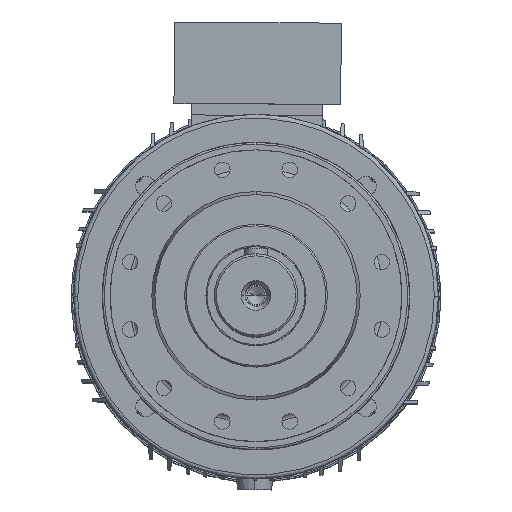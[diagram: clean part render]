
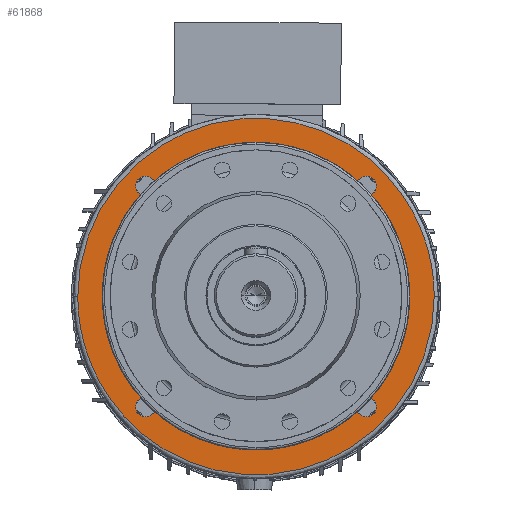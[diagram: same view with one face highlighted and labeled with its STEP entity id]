
A CAD part, top view. The second image highlights one B-rep face of the part: STEP entity #61868.
In plain terms, the highlighted planar face has unit normal (0, 0, 1).
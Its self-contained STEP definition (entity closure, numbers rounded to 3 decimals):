
#16337 = CARTESIAN_POINT ( 'NONE',  ( -171., -342., -116.5 ) ) ;
#16361 = CARTESIAN_POINT ( 'NONE',  ( -171., 0., -116.5 ) ) ;
#16378 = CARTESIAN_POINT ( 'NONE',  ( 171., 0., -116.5 ) ) ;
#16385 = CARTESIAN_POINT ( 'NONE',  ( 171., -342., -116.5 ) ) ;
#22217 = EDGE_CURVE ( 'NONE', #44690, #44680, #47654, .T. ) ;
#22263 = EDGE_CURVE ( 'NONE', #44969, #44913, #86975, .T. ) ;
#22292 = EDGE_CURVE ( 'NONE', #44941, #44920, #86987, .T. ) ;
#22337 = EDGE_CURVE ( 'NONE', #45006, #44988, #86994, .T. ) ;
#22349 = EDGE_CURVE ( 'NONE', #44960, #44915, #87009, .T. ) ;
#22351 = EDGE_CURVE ( 'NONE', #44927, #44955, #87041, .T. ) ;
#30339 = CIRCLE ( 'NONE', #81893, 9.5 ) ;
#30415 = CIRCLE ( 'NONE', #81917, 9.5 ) ;
#30417 = CIRCLE ( 'NONE', #81892, 9.5 ) ;
#30436 = CIRCLE ( 'NONE', #81922, 9.5 ) ;
#30523 = CIRCLE ( 'NONE', #81926, 122. ) ;
#32037 = CARTESIAN_POINT ( 'NONE',  ( -106.066, 96.566, -116.5 ) ) ;
#32132 = CARTESIAN_POINT ( 'NONE',  ( 106.066, -115.566, -116.5 ) ) ;
#32135 = CARTESIAN_POINT ( 'NONE',  ( -115.566, -106.066, -116.5 ) ) ;
#32143 = CARTESIAN_POINT ( 'NONE',  ( 115.566, 106.066, -116.5 ) ) ;
#32190 = CARTESIAN_POINT ( 'NONE',  ( -96.566, -106.066, -116.5 ) ) ;
#32195 = CARTESIAN_POINT ( 'NONE',  ( 106.066, -96.566, -116.5 ) ) ;
#32206 = CARTESIAN_POINT ( 'NONE',  ( -106.066, 115.566, -116.5 ) ) ;
#32247 = CARTESIAN_POINT ( 'NONE',  ( 96.566, 106.066, -116.5 ) ) ;
#32339 = CARTESIAN_POINT ( 'NONE',  ( 122., 0., -116.5 ) ) ;
#32347 = CARTESIAN_POINT ( 'NONE',  ( -122., 0., -116.5 ) ) ;
#32935 = CARTESIAN_POINT ( 'NONE',  ( 171., 0., -116.5 ) ) ;
#32943 = CARTESIAN_POINT ( 'NONE',  ( -171., 0., -116.5 ) ) ;
#41811 = CARTESIAN_POINT ( 'NONE',  ( 0., 0., -116.5 ) ) ;
#41842 = DIRECTION ( 'NONE',  ( -1., 0., 0. ) ) ;
#41844 = DIRECTION ( 'NONE',  ( 0., 0., -1. ) ) ;
#42261 = DIRECTION ( 'NONE',  ( 0., 0., -1. ) ) ;
#42267 = CARTESIAN_POINT ( 'NONE',  ( -106.066, 106.066, -116.5 ) ) ;
#42269 = DIRECTION ( 'NONE',  ( 0., 1., 0. ) ) ;
#42289 = CARTESIAN_POINT ( 'NONE',  ( -106.066, -106.066, -116.5 ) ) ;
#42298 = DIRECTION ( 'NONE',  ( -1., 0., 0. ) ) ;
#42310 = DIRECTION ( 'NONE',  ( 0., 0., -1. ) ) ;
#42377 = DIRECTION ( 'NONE',  ( 0., 1., 0. ) ) ;
#42390 = CARTESIAN_POINT ( 'NONE',  ( 106.066, 106.066, -116.5 ) ) ;
#42429 = DIRECTION ( 'NONE',  ( -1., 0., 0. ) ) ;
#42436 = DIRECTION ( 'NONE',  ( 0., 0., -1. ) ) ;
#42438 = DIRECTION ( 'NONE',  ( 0., 0., -1. ) ) ;
#42443 = CARTESIAN_POINT ( 'NONE',  ( 106.066, -106.066, -116.5 ) ) ;
#42766 = DIRECTION ( 'NONE',  ( 0., 0., 1. ) ) ;
#42773 = CARTESIAN_POINT ( 'NONE',  ( 0., 122., -116.5 ) ) ;
#42803 = PLANE ( 'NONE',  #87457 ) ;
#42808 = DIRECTION ( 'NONE',  ( 1., 0., 0. ) ) ;
#44680 = VERTEX_POINT ( 'NONE', #32935 ) ;
#44690 = VERTEX_POINT ( 'NONE', #32943 ) ;
#44913 = VERTEX_POINT ( 'NONE', #32037 ) ;
#44915 = VERTEX_POINT ( 'NONE', #32132 ) ;
#44920 = VERTEX_POINT ( 'NONE', #32190 ) ;
#44927 = VERTEX_POINT ( 'NONE', #32247 ) ;
#44941 = VERTEX_POINT ( 'NONE', #32135 ) ;
#44955 = VERTEX_POINT ( 'NONE', #32143 ) ;
#44960 = VERTEX_POINT ( 'NONE', #32195 ) ;
#44969 = VERTEX_POINT ( 'NONE', #32206 ) ;
#44988 = VERTEX_POINT ( 'NONE', #32347 ) ;
#45006 = VERTEX_POINT ( 'NONE', #32339 ) ;
#47654 =( BOUNDED_CURVE ( )  B_SPLINE_CURVE ( 3, ( #52535, #52533, #52564, #52532 ),
 .UNSPECIFIED., .F., .T. ) 
 B_SPLINE_CURVE_WITH_KNOTS ( ( 4, 4 ),
 ( 0.5, 1. ),
 .UNSPECIFIED. ) 
 CURVE ( )  GEOMETRIC_REPRESENTATION_ITEM ( )  RATIONAL_B_SPLINE_CURVE ( ( 1., 0.333, 0.333, 1. ) ) 
 REPRESENTATION_ITEM ( '' )  );
#48943 =( BOUNDED_CURVE ( )  B_SPLINE_CURVE ( 3, ( #16378, #16385, #16337, #16361 ),
 .UNSPECIFIED., .F., .F. ) 
 B_SPLINE_CURVE_WITH_KNOTS ( ( 4, 4 ),
 ( 0., 0.5 ),
 .UNSPECIFIED. ) 
 CURVE ( )  GEOMETRIC_REPRESENTATION_ITEM ( )  RATIONAL_B_SPLINE_CURVE ( ( 1., 0.333, 0.333, 1. ) ) 
 REPRESENTATION_ITEM ( '' )  );
#52238 = DIRECTION ( 'NONE',  ( -1., 0., 0. ) ) ;
#52273 = CARTESIAN_POINT ( 'NONE',  ( 0., 0., -116.5 ) ) ;
#52274 = DIRECTION ( 'NONE',  ( 0., 0., -1. ) ) ;
#52286 = CARTESIAN_POINT ( 'NONE',  ( 106.066, 106.066, -116.5 ) ) ;
#52288 = DIRECTION ( 'NONE',  ( 0., 1., 0. ) ) ;
#52307 = DIRECTION ( 'NONE',  ( -1., 0., 0. ) ) ;
#52311 = DIRECTION ( 'NONE',  ( 0., 0., -1. ) ) ;
#52323 = CARTESIAN_POINT ( 'NONE',  ( 106.066, -106.066, -116.5 ) ) ;
#52325 = DIRECTION ( 'NONE',  ( 0., 0., -1. ) ) ;
#52532 = CARTESIAN_POINT ( 'NONE',  ( 171., 0., -116.5 ) ) ;
#52533 = CARTESIAN_POINT ( 'NONE',  ( -171., 342., -116.5 ) ) ;
#52535 = CARTESIAN_POINT ( 'NONE',  ( -171., 0., -116.5 ) ) ;
#52564 = CARTESIAN_POINT ( 'NONE',  ( 171., 342., -116.5 ) ) ;
#52586 = CARTESIAN_POINT ( 'NONE',  ( -106.066, 106.066, -116.5 ) ) ;
#52598 = DIRECTION ( 'NONE',  ( 0., 1., 0. ) ) ;
#52615 = DIRECTION ( 'NONE',  ( 0., 0., -1. ) ) ;
#52684 = DIRECTION ( 'NONE',  ( -1., 0., 0. ) ) ;
#52690 = CARTESIAN_POINT ( 'NONE',  ( -106.066, -106.066, -116.5 ) ) ;
#52693 = DIRECTION ( 'NONE',  ( 0., 0., -1. ) ) ;
#57248 = EDGE_CURVE ( 'NONE', #44680, #44690, #48943, .T. ) ;
#57518 = EDGE_CURVE ( 'NONE', #44913, #44969, #30339, .T. ) ;
#57533 = EDGE_CURVE ( 'NONE', #44920, #44941, #30436, .T. ) ;
#57541 = EDGE_CURVE ( 'NONE', #44915, #44960, #30415, .T. ) ;
#57543 = EDGE_CURVE ( 'NONE', #44955, #44927, #30417, .T. ) ;
#57591 = EDGE_CURVE ( 'NONE', #44988, #45006, #30523, .T. ) ;
#61868 = ADVANCED_FACE ( 'NONE', ( #76663, #76668, #76632, #76667, #76659, #76628 ), #42803, .T. ) ;
#76628 = FACE_BOUND ( 'NONE', #77330, .T. ) ;
#76632 = FACE_BOUND ( 'NONE', #77328, .T. ) ;
#76659 = FACE_BOUND ( 'NONE', #77370, .T. ) ;
#76663 = FACE_OUTER_BOUND ( 'NONE', #77346, .T. ) ;
#76667 = FACE_BOUND ( 'NONE', #77290, .T. ) ;
#76668 = FACE_BOUND ( 'NONE', #77296, .T. ) ;
#77290 = EDGE_LOOP ( 'NONE', ( #78335, #78361 ) ) ;
#77296 = EDGE_LOOP ( 'NONE', ( #78468, #78356 ) ) ;
#77328 = EDGE_LOOP ( 'NONE', ( #78495, #78352 ) ) ;
#77330 = EDGE_LOOP ( 'NONE', ( #78480, #78389 ) ) ;
#77346 = EDGE_LOOP ( 'NONE', ( #78510, #78498 ) ) ;
#77370 = EDGE_LOOP ( 'NONE', ( #78506, #78337 ) ) ;
#78335 = ORIENTED_EDGE ( 'NONE', *, *, #22292, .T. ) ;
#78337 = ORIENTED_EDGE ( 'NONE', *, *, #57541, .T. ) ;
#78352 = ORIENTED_EDGE ( 'NONE', *, *, #57518, .T. ) ;
#78356 = ORIENTED_EDGE ( 'NONE', *, *, #22337, .T. ) ;
#78361 = ORIENTED_EDGE ( 'NONE', *, *, #57533, .T. ) ;
#78389 = ORIENTED_EDGE ( 'NONE', *, *, #57543, .T. ) ;
#78468 = ORIENTED_EDGE ( 'NONE', *, *, #57591, .T. ) ;
#78480 = ORIENTED_EDGE ( 'NONE', *, *, #22351, .T. ) ;
#78495 = ORIENTED_EDGE ( 'NONE', *, *, #22263, .T. ) ;
#78498 = ORIENTED_EDGE ( 'NONE', *, *, #22217, .F. ) ;
#78506 = ORIENTED_EDGE ( 'NONE', *, *, #22349, .T. ) ;
#78510 = ORIENTED_EDGE ( 'NONE', *, *, #57248, .F. ) ;
#81892 = AXIS2_PLACEMENT_3D ( 'NONE', #42390, #42438, #42429 ) ;
#81893 = AXIS2_PLACEMENT_3D ( 'NONE', #42267, #42261, #42269 ) ;
#81917 = AXIS2_PLACEMENT_3D ( 'NONE', #42443, #42436, #42377 ) ;
#81922 = AXIS2_PLACEMENT_3D ( 'NONE', #42289, #42310, #42298 ) ;
#81926 = AXIS2_PLACEMENT_3D ( 'NONE', #41811, #41844, #41842 ) ;
#86975 = CIRCLE ( 'NONE', #89730, 9.5 ) ;
#86987 = CIRCLE ( 'NONE', #89811, 9.5 ) ;
#86994 = CIRCLE ( 'NONE', #89762, 122. ) ;
#87009 = CIRCLE ( 'NONE', #89826, 9.5 ) ;
#87041 = CIRCLE ( 'NONE', #89736, 9.5 ) ;
#87457 = AXIS2_PLACEMENT_3D ( 'NONE', #42773, #42766, #42808 ) ;
#89730 = AXIS2_PLACEMENT_3D ( 'NONE', #52586, #52615, #52598 ) ;
#89736 = AXIS2_PLACEMENT_3D ( 'NONE', #52286, #52311, #52307 ) ;
#89762 = AXIS2_PLACEMENT_3D ( 'NONE', #52273, #52274, #52238 ) ;
#89811 = AXIS2_PLACEMENT_3D ( 'NONE', #52690, #52693, #52684 ) ;
#89826 = AXIS2_PLACEMENT_3D ( 'NONE', #52323, #52325, #52288 ) ;
